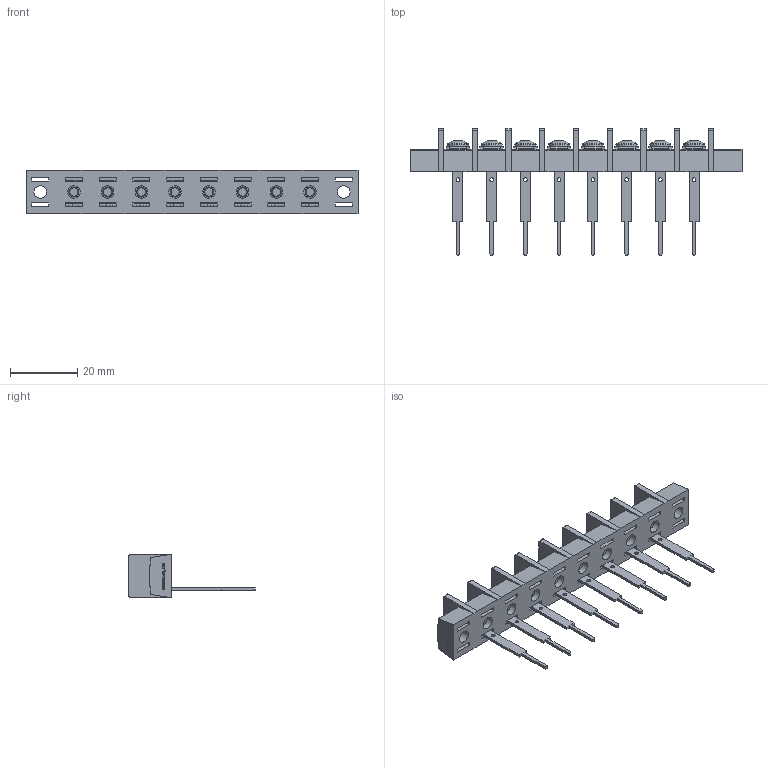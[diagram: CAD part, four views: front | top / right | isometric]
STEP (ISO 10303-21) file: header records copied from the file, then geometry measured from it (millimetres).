
FILE_DESCRIPTION(/* description */ ('Alibre Inc.'),/* implementation_level */ '2;1');
FILE_NAME(/* name */ 'export0',/* time_stamp */ '2015-10-22T20:28:16+09:00',/* author */ (''),/* organization */ (''),/* preprocessor_version */ 'ST-DEVELOPER v14',/* originating_system */ 'Alibre',/* authorisation */ '');
FILE_SCHEMA (('CONFIG_CONTROL_DESIGN'));
Length unit declared in the file: centimetre
Products named in the file (1): ID_1
Bounding box: 98.4 x 37.5 x 12.8 mm (x, y, z)
Volume: 8913 mm3; surface area: 11026.1 mm2
Topology: 1 solids, 137 shells, 2700 faces, 6950 edges, 4598 vertices
Faces by surface type: plane 2022, bspline 520, cylinder 94, cone 40, torus 16, sphere 8
Full cylindrical faces by diameter (mm): 1.1 x8, 3 x16, 3.7 x10, 4.6 x10, 6.3 x8
Entity records: 78195 total; most frequent: CARTESIAN_POINT 18823, ORIENTED_EDGE 13712, DIRECTION 8222, EDGE_CURVE 6856, VECTOR 5282, LINE 5282, VERTEX_POINT 4580, EDGE_LOOP 2990
